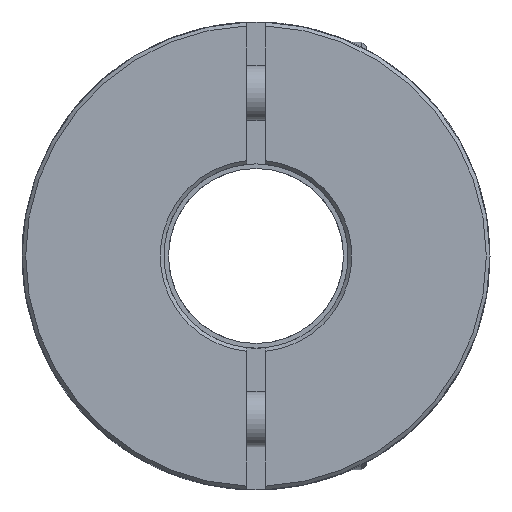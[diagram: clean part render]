
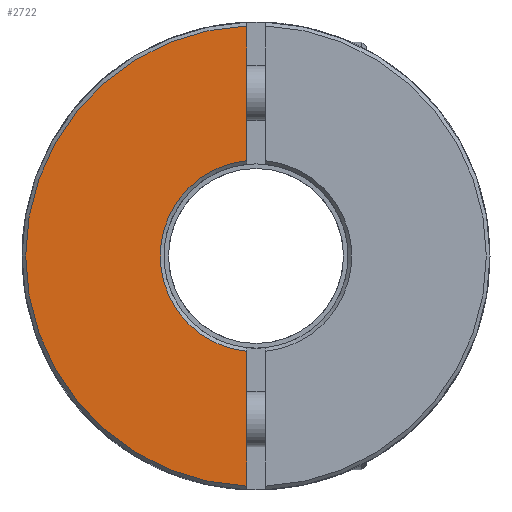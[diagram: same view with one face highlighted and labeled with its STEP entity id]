
A CAD part, front view. The second image highlights one B-rep face of the part: STEP entity #2722.
In plain terms, the highlighted planar face has unit normal (0, -1, 0).
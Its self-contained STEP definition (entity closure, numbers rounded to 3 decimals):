
#1=DIRECTION('',(0.,0.,-1.));
#2=VECTOR('',#1,7.314);
#3=CARTESIAN_POINT('',(-0.5,-15.,12.49));
#4=LINE('',#3,#2);
#5=DIRECTION('',(0.,0.,-1.));
#6=VECTOR('',#5,7.314);
#7=CARTESIAN_POINT('',(-0.5,-15.,-5.176));
#8=LINE('',#7,#6);
#1877=CARTESIAN_POINT('',(0.,-15.,0.));
#1878=DIRECTION('',(0.,1.,0.));
#1879=DIRECTION('',(-0.096,0.,-0.995));
#1880=AXIS2_PLACEMENT_3D('',#1877,#1878,#1879);
#1913=CARTESIAN_POINT('',(0.,-15.,0.));
#1914=DIRECTION('',(0.,-1.,0.));
#1915=DIRECTION('',(-0.04,0.,0.999));
#1916=AXIS2_PLACEMENT_3D('',#1913,#1914,#1915);
#2469=CARTESIAN_POINT('',(-0.5,-15.,12.49));
#2470=CARTESIAN_POINT('',(-0.5,-15.,5.176));
#2471=VERTEX_POINT('',#2469);
#2472=VERTEX_POINT('',#2470);
#2473=CARTESIAN_POINT('',(-0.5,-15.,-5.176));
#2474=CARTESIAN_POINT('',(-0.5,-15.,-12.49));
#2475=VERTEX_POINT('',#2473);
#2476=VERTEX_POINT('',#2474);
#2707=CARTESIAN_POINT('',(0.,-15.,0.));
#2708=DIRECTION('',(0.,1.,0.));
#2709=DIRECTION('',(1.,0.,0.));
#2710=AXIS2_PLACEMENT_3D('',#2707,#2708,#2709);
#2711=PLANE('',#2710);
#2713=ORIENTED_EDGE('',*,*,#2712,.T.);
#2715=ORIENTED_EDGE('',*,*,#2714,.F.);
#2717=ORIENTED_EDGE('',*,*,#2716,.T.);
#2719=ORIENTED_EDGE('',*,*,#2718,.F.);
#2720=EDGE_LOOP('',(#2713,#2715,#2717,#2719));
#2721=FACE_OUTER_BOUND('',#2720,.F.);
#2722=ADVANCED_FACE('',(#2721),#2711,.F.);
#1881=CIRCLE('',#1880,5.2);
#1917=CIRCLE('',#1916,12.5);
#2712=EDGE_CURVE('',#2471,#2472,#4,.T.);
#2714=EDGE_CURVE('',#2475,#2472,#1881,.T.);
#2716=EDGE_CURVE('',#2475,#2476,#8,.T.);
#2718=EDGE_CURVE('',#2471,#2476,#1917,.T.);
